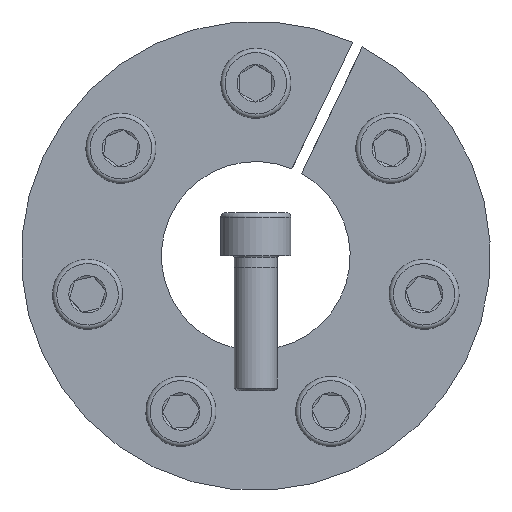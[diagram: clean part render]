
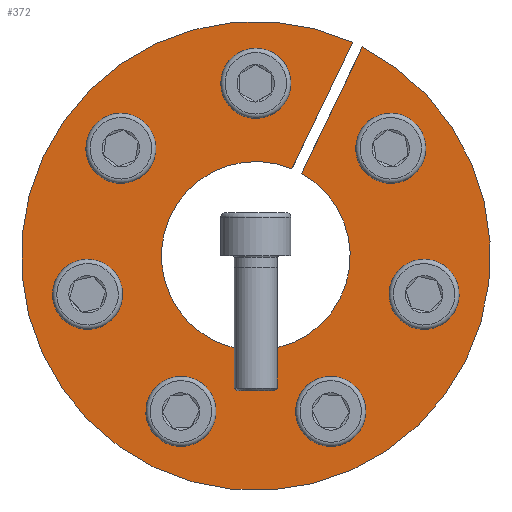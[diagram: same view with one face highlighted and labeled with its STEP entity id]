
A CAD part, front view. The second image highlights one B-rep face of the part: STEP entity #372.
In plain terms, the highlighted planar face has unit normal (0, -1, 0).
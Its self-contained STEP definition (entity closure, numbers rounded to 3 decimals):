
#372 = ADVANCED_FACE( '', ( #572, #573, #574, #575, #576, #577, #578, #579 ), #580, .F. );
#572 = FACE_OUTER_BOUND( '', #726, .T. );
#573 = FACE_BOUND( '', #727, .T. );
#574 = FACE_BOUND( '', #728, .T. );
#575 = FACE_BOUND( '', #729, .T. );
#576 = FACE_BOUND( '', #730, .T. );
#577 = FACE_BOUND( '', #731, .T. );
#578 = FACE_BOUND( '', #732, .T. );
#579 = FACE_BOUND( '', #733, .T. );
#580 = PLANE( '', #734 );
#726 = EDGE_LOOP( '', ( #910, #911, #912, #913 ) );
#727 = EDGE_LOOP( '', ( #914 ) );
#728 = EDGE_LOOP( '', ( #915 ) );
#729 = EDGE_LOOP( '', ( #916 ) );
#730 = EDGE_LOOP( '', ( #917 ) );
#731 = EDGE_LOOP( '', ( #918 ) );
#732 = EDGE_LOOP( '', ( #919 ) );
#733 = EDGE_LOOP( '', ( #920 ) );
#734 = AXIS2_PLACEMENT_3D( '', #921, #922, #923 );
#910 = ORIENTED_EDGE( '', *, *, #1235, .T. );
#911 = ORIENTED_EDGE( '', *, *, #1232, .T. );
#912 = ORIENTED_EDGE( '', *, *, #1236, .T. );
#913 = ORIENTED_EDGE( '', *, *, #1237, .F. );
#914 = ORIENTED_EDGE( '', *, *, #1238, .F. );
#915 = ORIENTED_EDGE( '', *, *, #1239, .F. );
#916 = ORIENTED_EDGE( '', *, *, #1240, .F. );
#917 = ORIENTED_EDGE( '', *, *, #1233, .F. );
#918 = ORIENTED_EDGE( '', *, *, #1241, .F. );
#919 = ORIENTED_EDGE( '', *, *, #1242, .F. );
#920 = ORIENTED_EDGE( '', *, *, #1243, .F. );
#921 = CARTESIAN_POINT( '', ( 0., 0., 43.5 ) );
#922 = DIRECTION( '', ( 0., 1., 0. ) );
#923 = DIRECTION( '', ( 1., 0., 0. ) );
#1232 = EDGE_CURVE( '', #1351, #1355, #1357, .T. );
#1233 = EDGE_CURVE( '', #1358, #1358, #1359, .T. );
#1235 = EDGE_CURVE( '', #1362, #1351, #1363, .T. );
#1236 = EDGE_CURVE( '', #1355, #1364, #1365, .T. );
#1237 = EDGE_CURVE( '', #1362, #1364, #1366, .T. );
#1238 = EDGE_CURVE( '', #1367, #1367, #1368, .T. );
#1239 = EDGE_CURVE( '', #1369, #1369, #1370, .T. );
#1240 = EDGE_CURVE( '', #1371, #1371, #1372, .T. );
#1241 = EDGE_CURVE( '', #1373, #1373, #1374, .T. );
#1242 = EDGE_CURVE( '', #1375, #1375, #1376, .T. );
#1243 = EDGE_CURVE( '', #1377, #1377, #1378, .T. );
#1351 = VERTEX_POINT( '', #1457 );
#1355 = VERTEX_POINT( '', #1462 );
#1357 = CIRCLE( '', #1465, 43.5 );
#1358 = VERTEX_POINT( '', #1466 );
#1359 = CIRCLE( '', #1467, 4.5 );
#1362 = VERTEX_POINT( '', #1470 );
#1363 = LINE( '', #1471, #1472 );
#1364 = VERTEX_POINT( '', #1473 );
#1365 = LINE( '', #1474, #1475 );
#1366 = CIRCLE( '', #1476, 17.5 );
#1367 = VERTEX_POINT( '', #1477 );
#1368 = CIRCLE( '', #1478, 4.5 );
#1369 = VERTEX_POINT( '', #1479 );
#1370 = CIRCLE( '', #1480, 4.5 );
#1371 = VERTEX_POINT( '', #1481 );
#1372 = CIRCLE( '', #1482, 4.5 );
#1373 = VERTEX_POINT( '', #1483 );
#1374 = CIRCLE( '', #1484, 4.5 );
#1375 = VERTEX_POINT( '', #1485 );
#1376 = CIRCLE( '', #1486, 4.5 );
#1377 = VERTEX_POINT( '', #1487 );
#1378 = CIRCLE( '', #1488, 4.5 );
#1457 = CARTESIAN_POINT( '', ( 17.968, 0., 39.616 ) );
#1462 = CARTESIAN_POINT( '', ( 19.77, 0., 38.748 ) );
#1465 = AXIS2_PLACEMENT_3D( '', #1591, #1592, #1593 );
#1466 = CARTESIAN_POINT( '', ( 9.83, 0., -30.783 ) );
#1467 = AXIS2_PLACEMENT_3D( '', #1594, #1595, #1596 );
#1470 = CARTESIAN_POINT( '', ( 6.68, 0., 16.175 ) );
#1471 = CARTESIAN_POINT( '', ( 6.68, 0., 16.175 ) );
#1472 = VECTOR( '', #1600, 1000. );
#1473 = CARTESIAN_POINT( '', ( 8.482, 0., 15.307 ) );
#1474 = CARTESIAN_POINT( '', ( 19.775, 0., 38.758 ) );
#1475 = VECTOR( '', #1601, 1000. );
#1476 = AXIS2_PLACEMENT_3D( '', #1602, #1603, #1604 );
#1477 = CARTESIAN_POINT( '', ( 4.5, 0., 32. ) );
#1478 = AXIS2_PLACEMENT_3D( '', #1605, #1606, #1607 );
#1479 = CARTESIAN_POINT( '', ( 27.824, 0., 16.433 ) );
#1480 = AXIS2_PLACEMENT_3D( '', #1608, #1609, #1610 );
#1481 = CARTESIAN_POINT( '', ( 30.196, 0., -11.508 ) );
#1482 = AXIS2_PLACEMENT_3D( '', #1611, #1612, #1613 );
#1483 = CARTESIAN_POINT( '', ( -17.939, 0., -26.879 ) );
#1484 = AXIS2_PLACEMENT_3D( '', #1614, #1615, #1616 );
#1485 = CARTESIAN_POINT( '', ( -32.199, 0., -2.733 ) );
#1486 = AXIS2_PLACEMENT_3D( '', #1617, #1618, #1619 );
#1487 = CARTESIAN_POINT( '', ( -22.213, 0., 23.47 ) );
#1488 = AXIS2_PLACEMENT_3D( '', #1620, #1621, #1622 );
#1591 = CARTESIAN_POINT( '', ( 0., 0., 0. ) );
#1592 = DIRECTION( '', ( 0., -1., 0. ) );
#1593 = DIRECTION( '', ( 0., 0., -1. ) );
#1594 = CARTESIAN_POINT( '', ( 13.884, 0., -28.831 ) );
#1595 = DIRECTION( '', ( 0., -1., 0. ) );
#1596 = DIRECTION( '', ( -0.901, 0., -0.434 ) );
#1600 = DIRECTION( '', ( 0.434, 0., 0.901 ) );
#1601 = DIRECTION( '', ( -0.434, 0., -0.901 ) );
#1602 = CARTESIAN_POINT( '', ( 0., 0., 0. ) );
#1603 = DIRECTION( '', ( 0., -1., 0. ) );
#1604 = DIRECTION( '', ( 0., 0., -1. ) );
#1605 = CARTESIAN_POINT( '', ( 0., 0., 32. ) );
#1606 = DIRECTION( '', ( 0., -1., 0. ) );
#1607 = DIRECTION( '', ( 1., 0., 0. ) );
#1608 = CARTESIAN_POINT( '', ( 25.019, 0., 19.952 ) );
#1609 = DIRECTION( '', ( 0., -1., 0. ) );
#1610 = DIRECTION( '', ( 0.623, 0., -0.782 ) );
#1611 = CARTESIAN_POINT( '', ( 31.198, 0., -7.121 ) );
#1612 = DIRECTION( '', ( 0., -1., 0. ) );
#1613 = DIRECTION( '', ( -0.223, 0., -0.975 ) );
#1614 = CARTESIAN_POINT( '', ( -13.884, 0., -28.831 ) );
#1615 = DIRECTION( '', ( 0., -1., 0. ) );
#1616 = DIRECTION( '', ( -0.901, 0., 0.434 ) );
#1617 = CARTESIAN_POINT( '', ( -31.198, 0., -7.121 ) );
#1618 = DIRECTION( '', ( 0., -1., 0. ) );
#1619 = DIRECTION( '', ( -0.223, 0., 0.975 ) );
#1620 = CARTESIAN_POINT( '', ( -25.019, 0., 19.952 ) );
#1621 = DIRECTION( '', ( 0., -1., 0. ) );
#1622 = DIRECTION( '', ( 0.623, 0., 0.782 ) );
